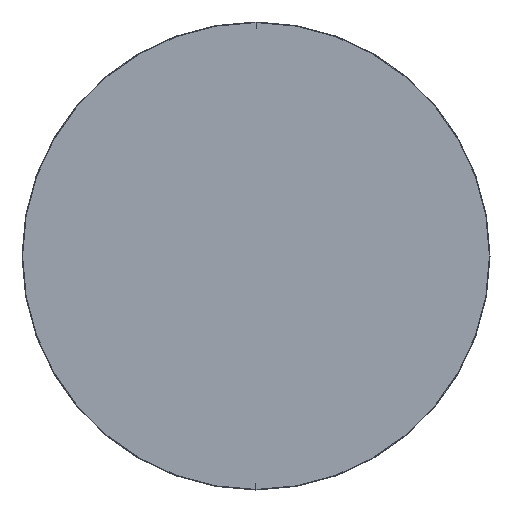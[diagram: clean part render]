
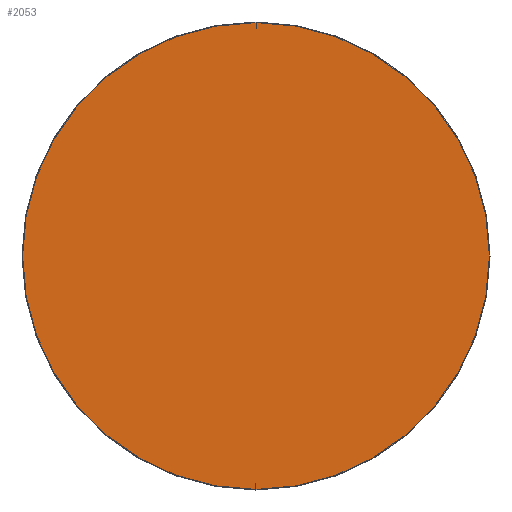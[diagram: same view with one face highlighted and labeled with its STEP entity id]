
A CAD part, left-side view. The second image highlights one B-rep face of the part: STEP entity #2053.
In plain terms, the highlighted planar face has unit normal (-1, 0, 0).
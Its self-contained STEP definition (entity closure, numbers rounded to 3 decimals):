
#213 = CARTESIAN_POINT ( 'NONE',  ( -149.5, 0., 0. ) ) ;
#304 = VERTEX_POINT ( 'NONE', #2199 ) ;
#417 = AXIS2_PLACEMENT_3D ( 'NONE', #213, #1659, #1641 ) ;
#509 = CARTESIAN_POINT ( 'NONE',  ( -149.5, 0., 0. ) ) ;
#903 = CARTESIAN_POINT ( 'NONE',  ( -149.5, 0., -37.4 ) ) ;
#1095 = DIRECTION ( 'NONE',  ( -1., 0., 0. ) ) ;
#1254 = AXIS2_PLACEMENT_3D ( 'NONE', #509, #3028, #3325 ) ;
#1368 = EDGE_CURVE ( 'NONE', #1538, #304, #2041, .T. ) ;
#1538 = VERTEX_POINT ( 'NONE', #903 ) ;
#1586 = ORIENTED_EDGE ( 'NONE', *, *, #3349, .T. ) ;
#1641 = DIRECTION ( 'NONE',  ( 0., 0., 1. ) ) ;
#1659 = DIRECTION ( 'NONE',  ( -1., 0., 0. ) ) ;
#1929 = CARTESIAN_POINT ( 'NONE',  ( -149.5, 0., 0. ) ) ;
#1950 = ORIENTED_EDGE ( 'NONE', *, *, #1368, .T. ) ;
#2041 = CIRCLE ( 'NONE', #1254, 37.4 ) ;
#2053 = ADVANCED_FACE ( 'NONE', ( #3526 ), #3309, .T. ) ;
#2199 = CARTESIAN_POINT ( 'NONE',  ( -149.5, 0., 37.4 ) ) ;
#2350 = CIRCLE ( 'NONE', #3083, 37.4 ) ;
#3003 = DIRECTION ( 'NONE',  ( 0., 0., 1. ) ) ;
#3028 = DIRECTION ( 'NONE',  ( -1., 0., 0. ) ) ;
#3083 = AXIS2_PLACEMENT_3D ( 'NONE', #1929, #1095, #3003 ) ;
#3290 = EDGE_LOOP ( 'NONE', ( #1586, #1950 ) ) ;
#3309 = PLANE ( 'NONE',  #417 ) ;
#3325 = DIRECTION ( 'NONE',  ( 0., 0., 1. ) ) ;
#3349 = EDGE_CURVE ( 'NONE', #304, #1538, #2350, .T. ) ;
#3526 = FACE_OUTER_BOUND ( 'NONE', #3290, .T. ) ;
